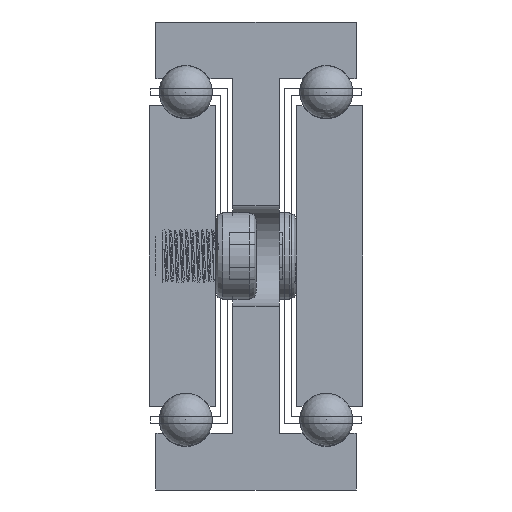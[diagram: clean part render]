
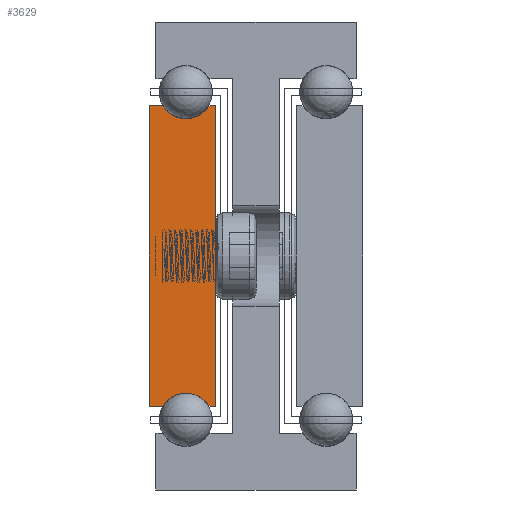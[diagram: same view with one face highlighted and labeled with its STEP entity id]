
A CAD part, front view. The second image highlights one B-rep face of the part: STEP entity #3629.
In plain terms, the highlighted planar face has unit normal (0, -1, 0).
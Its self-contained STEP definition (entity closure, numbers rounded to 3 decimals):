
#475=CIRCLE('',#3912,4.);
#477=CIRCLE('',#3918,4.);
#779=FACE_OUTER_BOUND('',#1005,.T.);
#1005=EDGE_LOOP('',(#2924,#2925,#2926,#2927,#2928,#2929,#2930,#2931));
#1378=LINE('',#5596,#1590);
#1381=LINE('',#5602,#1593);
#1385=LINE('',#5614,#1597);
#1388=LINE('',#5620,#1600);
#1391=LINE('',#5626,#1603);
#1395=LINE('',#5636,#1607);
#1590=VECTOR('',#4502,1.);
#1593=VECTOR('',#4507,1.);
#1597=VECTOR('',#4519,1.);
#1600=VECTOR('',#4524,1.);
#1603=VECTOR('',#4529,1.);
#1607=VECTOR('',#4541,1.);
#1810=VERTEX_POINT('',#5593);
#1811=VERTEX_POINT('',#5595);
#1813=VERTEX_POINT('',#5601);
#1815=VERTEX_POINT('',#5607);
#1817=VERTEX_POINT('',#5613);
#1819=VERTEX_POINT('',#5619);
#1821=VERTEX_POINT('',#5625);
#1823=VERTEX_POINT('',#5631);
#2292=EDGE_CURVE('',#1811,#1810,#1378,.T.);
#2295=EDGE_CURVE('',#1813,#1811,#1381,.T.);
#2298=EDGE_CURVE('',#1815,#1813,#475,.T.);
#2301=EDGE_CURVE('',#1817,#1815,#1385,.T.);
#2304=EDGE_CURVE('',#1819,#1817,#1388,.T.);
#2307=EDGE_CURVE('',#1821,#1819,#1391,.T.);
#2310=EDGE_CURVE('',#1823,#1821,#477,.T.);
#2313=EDGE_CURVE('',#1810,#1823,#1395,.T.);
#2924=ORIENTED_EDGE('',*,*,#2313,.T.);
#2925=ORIENTED_EDGE('',*,*,#2310,.T.);
#2926=ORIENTED_EDGE('',*,*,#2307,.T.);
#2927=ORIENTED_EDGE('',*,*,#2304,.T.);
#2928=ORIENTED_EDGE('',*,*,#2301,.T.);
#2929=ORIENTED_EDGE('',*,*,#2298,.T.);
#2930=ORIENTED_EDGE('',*,*,#2295,.T.);
#2931=ORIENTED_EDGE('',*,*,#2292,.T.);
#3527=PLANE('',#3921);
#3629=ADVANCED_FACE('',(#779),#3527,.T.);
#3912=AXIS2_PLACEMENT_3D('',#5608,#4513,#4514);
#3918=AXIS2_PLACEMENT_3D('',#5632,#4535,#4536);
#3921=AXIS2_PLACEMENT_3D('',#5638,#4544,#4545);
#4502=DIRECTION('',(0.,0.,-1.));
#4507=DIRECTION('',(-1.,0.,0.));
#4513=DIRECTION('center_axis',(0.,1.,0.));
#4514=DIRECTION('ref_axis',(-0.866,0.,-0.5));
#4519=DIRECTION('',(-1.,0.,0.));
#4524=DIRECTION('',(0.,0.,1.));
#4529=DIRECTION('',(1.,0.,0.));
#4535=DIRECTION('center_axis',(0.,1.,0.));
#4536=DIRECTION('ref_axis',(0.866,0.,0.5));
#4541=DIRECTION('',(1.,0.,0.));
#4544=DIRECTION('center_axis',(0.,-1.,0.));
#4545=DIRECTION('ref_axis',(1.,0.,0.));
#5593=CARTESIAN_POINT('',(-11871.261,-805.905,727.5));
#5595=CARTESIAN_POINT('',(-11871.261,-805.905,772.5));
#5596=CARTESIAN_POINT('',(-11871.261,-805.905,727.5));
#5601=CARTESIAN_POINT('',(-11869.225,-805.905,772.5));
#5602=CARTESIAN_POINT('',(-11871.261,-805.905,772.5));
#5607=CARTESIAN_POINT('',(-11862.297,-805.905,772.5));
#5608=CARTESIAN_POINT('Origin',(-11865.761,-805.905,774.5));
#5613=CARTESIAN_POINT('',(-11861.261,-805.905,772.5));
#5614=CARTESIAN_POINT('',(-11862.297,-805.905,772.5));
#5619=CARTESIAN_POINT('',(-11861.261,-805.905,727.5));
#5620=CARTESIAN_POINT('',(-11861.261,-805.905,772.5));
#5625=CARTESIAN_POINT('',(-11862.297,-805.905,727.5));
#5626=CARTESIAN_POINT('',(-11861.261,-805.905,727.5));
#5631=CARTESIAN_POINT('',(-11869.225,-805.905,727.5));
#5632=CARTESIAN_POINT('Origin',(-11865.761,-805.905,725.5));
#5636=CARTESIAN_POINT('',(-11869.225,-805.905,727.5));
#5638=CARTESIAN_POINT('Origin',(-11866.267,-805.905,750.));
